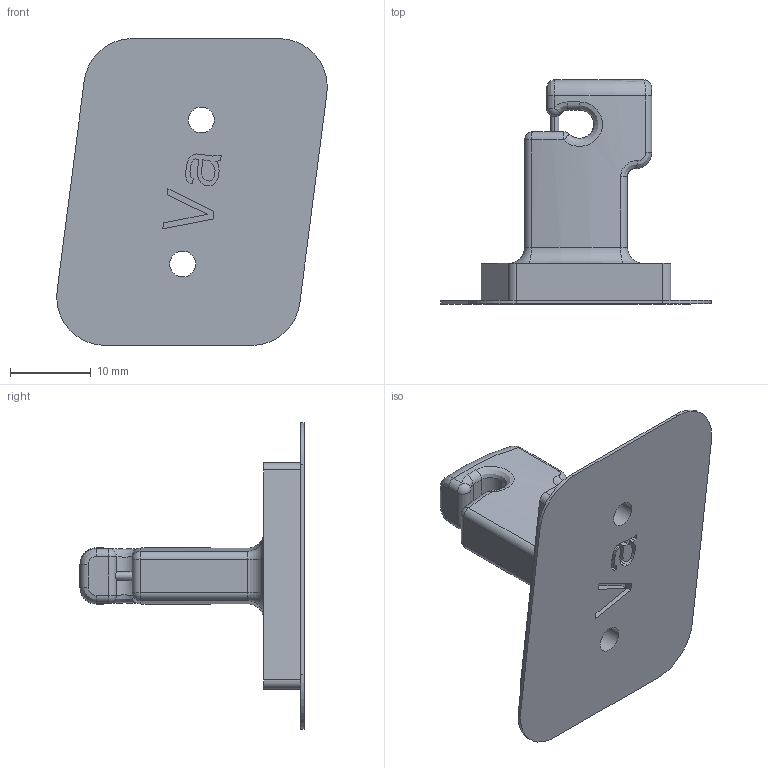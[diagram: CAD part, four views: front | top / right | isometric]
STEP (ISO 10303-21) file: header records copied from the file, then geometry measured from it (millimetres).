
FILE_DESCRIPTION((''),'2;1');
FILE_NAME('0000200910','2024-01-10T08:35:12',('Wyndorps'),(''),'CREO PARAMETRIC BY PTC INC, 2022484','CREO PARAMETRIC BY PTC INC, 2022484','');
FILE_SCHEMA(('CONFIG_CONTROL_DESIGN'));
Length unit declared in the file: millimetre
Products named in the file (1): 0000200910
Bounding box: 33.5 x 27.75 x 38 mm (x, y, z)
Volume: 4762.3 mm3; surface area: 3679.7 mm2
Topology: 1 solids, 1 shells, 149 faces, 378 edges, 236 vertices
Faces by surface type: plane 80, cylinder 35, bspline 12, torus 12, sphere 6, cone 4
Entity records: 5707 total; most frequent: CARTESIAN_POINT 2094, ORIENTED_EDGE 756, DIRECTION 724, EDGE_CURVE 378, VECTOR 254, LINE 254, VERTEX_POINT 236, AXIS2_PLACEMENT_3D 235
